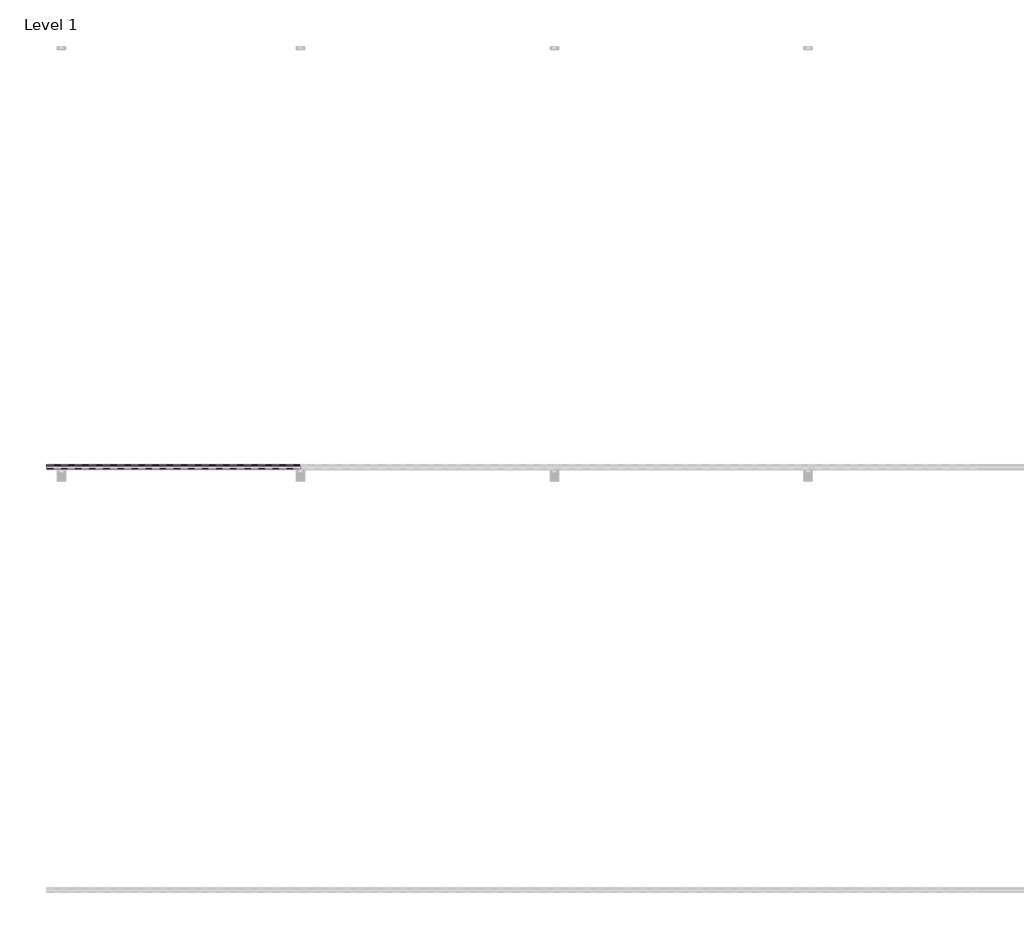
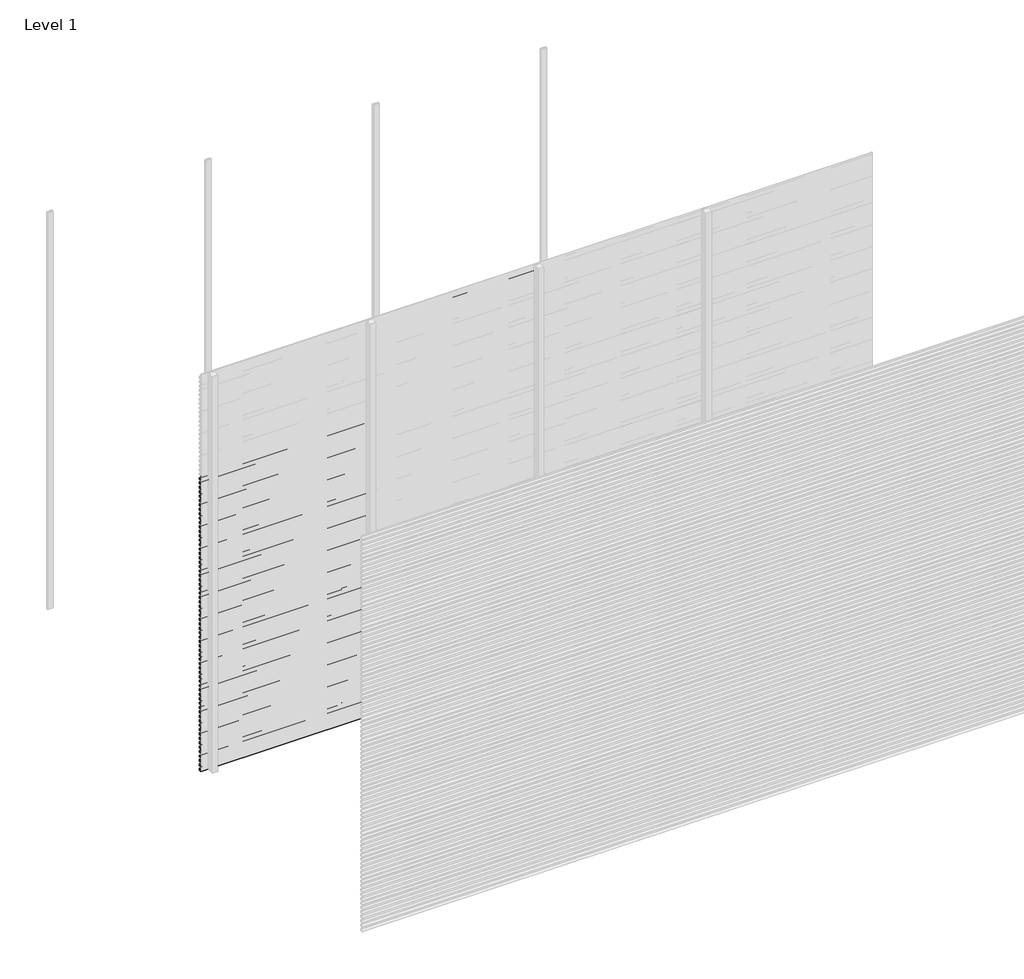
# One storey, part 35 of 77: 72 proxies.
"""IFC4 building model written with IfcOpenShell, lengths in millimetres."""

from ifc_helpers import new_model, si_unit, frame, origin, place, context, project, spatial, polyline, outline, extrude, element, save

model = new_model("IFC4")

# Units and contexts
model_context = context("Model", 3, world=origin())
ifc_project = project(units=[si_unit("LENGTHUNIT", "METRE", prefix="MILLI")], contexts=[model_context])

# Site, building, storey
site = spatial("IfcSite", under=ifc_project)
building = spatial("IfcBuilding", under=site)
storey = spatial("IfcBuildingStorey", under=building, Name="Level 1", Elevation=0.0)

# Proxies
placement = place(None, origin())
element("IfcBuildingElementProxy", 1, Name="Wall Sweeps", at=placement, inside=storey, context=model_context, shape_type="SweptSolid", body=[
    extrude(outline(polyline([(-29978.6, 2206.6359887), (-29998.0, 2217.8366691), (-29998.0, 2231.1), (-29997.0, 2231.1), (-29997.0, 2218.4191057), (-29977.6, 2207.2185105), (-29977.6, 2193.6185105), (-29978.6, 2195.1953129), (-29978.6, 2201.0032062), (-29995.9773817, 2192.9), (-29996.4, 2193.8063078), (-29978.6, 2202.1065841), (-29978.6, 2206.6359887)])), frame((0.0, 0.0, 0.0), z_axis=(1.0, 0.0, 0.0), x_axis=(0.0, 1.0, 0.0)), (0.0, 0.0, 1.0), 1200.0),
])
element("IfcBuildingElementProxy", 2, Name="Wall Sweeps", at=placement, inside=storey, context=model_context, shape_type="SweptSolid", body=[
    extrude(outline(polyline([(-29978.6, 2173.3359887), (-29998.0, 2184.5366691), (-29998.0, 2197.8), (-29997.0, 2197.8), (-29997.0, 2185.1191057), (-29977.6, 2173.9185105), (-29977.6, 2160.3185105), (-29978.6, 2161.8953129), (-29978.6, 2167.7032062), (-29995.9773817, 2159.6), (-29996.4, 2160.5063078), (-29978.6, 2168.8065841), (-29978.6, 2173.3359887)])), frame((0.0, 0.0, 0.0), z_axis=(1.0, 0.0, 0.0), x_axis=(0.0, 1.0, 0.0)), (0.0, 0.0, 1.0), 1200.0),
])
element("IfcBuildingElementProxy", 3, Name="Wall Sweeps", at=placement, inside=storey, context=model_context, shape_type="SweptSolid", body=[
    extrude(outline(polyline([(-29978.6, 2140.0359887), (-29998.0, 2151.2366691), (-29998.0, 2164.5), (-29997.0, 2164.5), (-29997.0, 2151.8191057), (-29977.6, 2140.6185105), (-29977.6, 2127.0185105), (-29978.6, 2128.5953129), (-29978.6, 2134.4032062), (-29995.9773817, 2126.3), (-29996.4, 2127.2063078), (-29978.6, 2135.5065841), (-29978.6, 2140.0359887)])), frame((0.0, 0.0, 0.0), z_axis=(1.0, 0.0, 0.0), x_axis=(0.0, 1.0, 0.0)), (0.0, 0.0, 1.0), 1200.0),
])
element("IfcBuildingElementProxy", 4, Name="Wall Sweeps", at=placement, inside=storey, context=model_context, shape_type="SweptSolid", body=[
    extrude(outline(polyline([(-29978.6, 2106.7359887), (-29998.0, 2117.9366691), (-29998.0, 2131.2), (-29997.0, 2131.2), (-29997.0, 2118.5191057), (-29977.6, 2107.3185105), (-29977.6, 2093.7185105), (-29978.6, 2095.2953129), (-29978.6, 2101.1032062), (-29995.9773817, 2093.0), (-29996.4, 2093.9063078), (-29978.6, 2102.2065841), (-29978.6, 2106.7359887)])), frame((0.0, 0.0, 0.0), z_axis=(1.0, 0.0, 0.0), x_axis=(0.0, 1.0, 0.0)), (0.0, 0.0, 1.0), 1200.0),
])
element("IfcBuildingElementProxy", 5, Name="Wall Sweeps", at=placement, inside=storey, context=model_context, shape_type="SweptSolid", body=[
    extrude(outline(polyline([(-29978.6, 2073.4359887), (-29998.0, 2084.6366691), (-29998.0, 2097.9), (-29997.0, 2097.9), (-29997.0, 2085.2191057), (-29977.6, 2074.0185105), (-29977.6, 2060.4185105), (-29978.6, 2061.9953129), (-29978.6, 2067.8032062), (-29995.9773817, 2059.7), (-29996.4, 2060.6063078), (-29978.6, 2068.9065841), (-29978.6, 2073.4359887)])), frame((0.0, 0.0, 0.0), z_axis=(1.0, 0.0, 0.0), x_axis=(0.0, 1.0, 0.0)), (0.0, 0.0, 1.0), 1200.0),
])
element("IfcBuildingElementProxy", 6, Name="Wall Sweeps", at=placement, inside=storey, context=model_context, shape_type="SweptSolid", body=[
    extrude(outline(polyline([(-29978.6, 2040.1359887), (-29998.0, 2051.3366691), (-29998.0, 2064.6), (-29997.0, 2064.6), (-29997.0, 2051.9191057), (-29977.6, 2040.7185105), (-29977.6, 2027.1185105), (-29978.6, 2028.6953129), (-29978.6, 2034.5032062), (-29995.9773817, 2026.4), (-29996.4, 2027.3063078), (-29978.6, 2035.6065841), (-29978.6, 2040.1359887)])), frame((0.0, 0.0, 0.0), z_axis=(1.0, 0.0, 0.0), x_axis=(0.0, 1.0, 0.0)), (0.0, 0.0, 1.0), 1200.0),
])
element("IfcBuildingElementProxy", 7, Name="Wall Sweeps", at=placement, inside=storey, context=model_context, shape_type="SweptSolid", body=[
    extrude(outline(polyline([(-29978.6, 2006.8359887), (-29998.0, 2018.0366691), (-29998.0, 2031.3), (-29997.0, 2031.3), (-29997.0, 2018.6191057), (-29977.6, 2007.4185105), (-29977.6, 1993.8185105), (-29978.6, 1995.3953129), (-29978.6, 2001.2032062), (-29995.9773817, 1993.1), (-29996.4, 1994.0063078), (-29978.6, 2002.3065841), (-29978.6, 2006.8359887)])), frame((0.0, 0.0, 0.0), z_axis=(1.0, 0.0, 0.0), x_axis=(0.0, 1.0, 0.0)), (0.0, 0.0, 1.0), 1200.0),
])
element("IfcBuildingElementProxy", 8, Name="Wall Sweeps", at=placement, inside=storey, context=model_context, shape_type="SweptSolid", body=[
    extrude(outline(polyline([(-29978.6, 1973.5359887), (-29998.0, 1984.7366691), (-29998.0, 1998.0), (-29997.0, 1998.0), (-29997.0, 1985.3191057), (-29977.6, 1974.1185105), (-29977.6, 1960.5185105), (-29978.6, 1962.0953129), (-29978.6, 1967.9032062), (-29995.9773817, 1959.8), (-29996.4, 1960.7063078), (-29978.6, 1969.0065841), (-29978.6, 1973.5359887)])), frame((0.0, 0.0, 0.0), z_axis=(1.0, 0.0, 0.0), x_axis=(0.0, 1.0, 0.0)), (0.0, 0.0, 1.0), 1200.0),
])
element("IfcBuildingElementProxy", 9, Name="Wall Sweeps", at=placement, inside=storey, context=model_context, shape_type="SweptSolid", body=[
    extrude(outline(polyline([(-29978.6, 1940.2359887), (-29998.0, 1951.4366691), (-29998.0, 1964.7), (-29997.0, 1964.7), (-29997.0, 1952.0191057), (-29977.6, 1940.8185105), (-29977.6, 1927.2185105), (-29978.6, 1928.7953129), (-29978.6, 1934.6032062), (-29995.9773817, 1926.5), (-29996.4, 1927.4063078), (-29978.6, 1935.7065841), (-29978.6, 1940.2359887)])), frame((0.0, 0.0, 0.0), z_axis=(1.0, 0.0, 0.0), x_axis=(0.0, 1.0, 0.0)), (0.0, 0.0, 1.0), 1200.0),
])
element("IfcBuildingElementProxy", 10, Name="Wall Sweeps", at=placement, inside=storey, context=model_context, shape_type="SweptSolid", body=[
    extrude(outline(polyline([(-29978.6, 1906.9359887), (-29998.0, 1918.1366691), (-29998.0, 1931.4), (-29997.0, 1931.4), (-29997.0, 1918.7191057), (-29977.6, 1907.5185105), (-29977.6, 1893.9185105), (-29978.6, 1895.4953129), (-29978.6, 1901.3032062), (-29995.9773817, 1893.2), (-29996.4, 1894.1063078), (-29978.6, 1902.4065841), (-29978.6, 1906.9359887)])), frame((0.0, 0.0, 0.0), z_axis=(1.0, 0.0, 0.0), x_axis=(0.0, 1.0, 0.0)), (0.0, 0.0, 1.0), 1200.0),
])
element("IfcBuildingElementProxy", 11, Name="Wall Sweeps", at=placement, inside=storey, context=model_context, shape_type="SweptSolid", body=[
    extrude(outline(polyline([(-29978.6, 1873.6359887), (-29998.0, 1884.8366691), (-29998.0, 1898.1), (-29997.0, 1898.1), (-29997.0, 1885.4191057), (-29977.6, 1874.2185105), (-29977.6, 1860.6185105), (-29978.6, 1862.1953129), (-29978.6, 1868.0032062), (-29995.9773817, 1859.9), (-29996.4, 1860.8063078), (-29978.6, 1869.1065841), (-29978.6, 1873.6359887)])), frame((0.0, 0.0, 0.0), z_axis=(1.0, 0.0, 0.0), x_axis=(0.0, 1.0, 0.0)), (0.0, 0.0, 1.0), 1200.0),
])
element("IfcBuildingElementProxy", 12, Name="Wall Sweeps", at=placement, inside=storey, context=model_context, shape_type="SweptSolid", body=[
    extrude(outline(polyline([(-29978.6, 1840.3359887), (-29998.0, 1851.5366691), (-29998.0, 1864.8), (-29997.0, 1864.8), (-29997.0, 1852.1191057), (-29977.6, 1840.9185105), (-29977.6, 1827.3185105), (-29978.6, 1828.8953129), (-29978.6, 1834.7032062), (-29995.9773817, 1826.6), (-29996.4, 1827.5063078), (-29978.6, 1835.8065841), (-29978.6, 1840.3359887)])), frame((0.0, 0.0, 0.0), z_axis=(1.0, 0.0, 0.0), x_axis=(0.0, 1.0, 0.0)), (0.0, 0.0, 1.0), 1200.0),
])
element("IfcBuildingElementProxy", 13, Name="Wall Sweeps", at=placement, inside=storey, context=model_context, shape_type="SweptSolid", body=[
    extrude(outline(polyline([(-29978.6, 1807.0359887), (-29998.0, 1818.2366691), (-29998.0, 1831.5), (-29997.0, 1831.5), (-29997.0, 1818.8191057), (-29977.6, 1807.6185105), (-29977.6, 1794.0185105), (-29978.6, 1795.5953129), (-29978.6, 1801.4032062), (-29995.9773817, 1793.3), (-29996.4, 1794.2063078), (-29978.6, 1802.5065841), (-29978.6, 1807.0359887)])), frame((0.0, 0.0, 0.0), z_axis=(1.0, 0.0, 0.0), x_axis=(0.0, 1.0, 0.0)), (0.0, 0.0, 1.0), 1200.0),
])
element("IfcBuildingElementProxy", 14, Name="Wall Sweeps", at=placement, inside=storey, context=model_context, shape_type="SweptSolid", body=[
    extrude(outline(polyline([(-29978.6, 1773.7359887), (-29998.0, 1784.9366691), (-29998.0, 1798.2), (-29997.0, 1798.2), (-29997.0, 1785.5191057), (-29977.6, 1774.3185105), (-29977.6, 1760.7185105), (-29978.6, 1762.2953129), (-29978.6, 1768.1032062), (-29995.9773817, 1760.0), (-29996.4, 1760.9063078), (-29978.6, 1769.2065841), (-29978.6, 1773.7359887)])), frame((0.0, 0.0, 0.0), z_axis=(1.0, 0.0, 0.0), x_axis=(0.0, 1.0, 0.0)), (0.0, 0.0, 1.0), 1200.0),
])
element("IfcBuildingElementProxy", 15, Name="Wall Sweeps", at=placement, inside=storey, context=model_context, shape_type="SweptSolid", body=[
    extrude(outline(polyline([(-29978.6, 1740.4359887), (-29998.0, 1751.6366691), (-29998.0, 1764.9), (-29997.0, 1764.9), (-29997.0, 1752.2191057), (-29977.6, 1741.0185105), (-29977.6, 1727.4185105), (-29978.6, 1728.9953129), (-29978.6, 1734.8032062), (-29995.9773817, 1726.7), (-29996.4, 1727.6063078), (-29978.6, 1735.9065841), (-29978.6, 1740.4359887)])), frame((0.0, 0.0, 0.0), z_axis=(1.0, 0.0, 0.0), x_axis=(0.0, 1.0, 0.0)), (0.0, 0.0, 1.0), 1200.0),
])
element("IfcBuildingElementProxy", 16, Name="Wall Sweeps", at=placement, inside=storey, context=model_context, shape_type="SweptSolid", body=[
    extrude(outline(polyline([(-29978.6, 1707.1359887), (-29998.0, 1718.3366691), (-29998.0, 1731.6), (-29997.0, 1731.6), (-29997.0, 1718.9191057), (-29977.6, 1707.7185105), (-29977.6, 1694.1185105), (-29978.6, 1695.6953129), (-29978.6, 1701.5032062), (-29995.9773817, 1693.4), (-29996.4, 1694.3063078), (-29978.6, 1702.6065841), (-29978.6, 1707.1359887)])), frame((0.0, 0.0, 0.0), z_axis=(1.0, 0.0, 0.0), x_axis=(0.0, 1.0, 0.0)), (0.0, 0.0, 1.0), 1200.0),
])
element("IfcBuildingElementProxy", 17, Name="Wall Sweeps", at=placement, inside=storey, context=model_context, shape_type="SweptSolid", body=[
    extrude(outline(polyline([(-29978.6, 1673.8359887), (-29998.0, 1685.0366691), (-29998.0, 1698.3), (-29997.0, 1698.3), (-29997.0, 1685.6191057), (-29977.6, 1674.4185105), (-29977.6, 1660.8185105), (-29978.6, 1662.3953129), (-29978.6, 1668.2032062), (-29995.9773817, 1660.1), (-29996.4, 1661.0063078), (-29978.6, 1669.3065841), (-29978.6, 1673.8359887)])), frame((0.0, 0.0, 0.0), z_axis=(1.0, 0.0, 0.0), x_axis=(0.0, 1.0, 0.0)), (0.0, 0.0, 1.0), 1200.0),
])
element("IfcBuildingElementProxy", 18, Name="Wall Sweeps", at=placement, inside=storey, context=model_context, shape_type="SweptSolid", body=[
    extrude(outline(polyline([(-29978.6, 1640.5359887), (-29998.0, 1651.7366691), (-29998.0, 1665.0), (-29997.0, 1665.0), (-29997.0, 1652.3191057), (-29977.6, 1641.1185105), (-29977.6, 1627.5185105), (-29978.6, 1629.0953129), (-29978.6, 1634.9032062), (-29995.9773817, 1626.8), (-29996.4, 1627.7063078), (-29978.6, 1636.0065841), (-29978.6, 1640.5359887)])), frame((0.0, 0.0, 0.0), z_axis=(1.0, 0.0, 0.0), x_axis=(0.0, 1.0, 0.0)), (0.0, 0.0, 1.0), 1200.0),
])
element("IfcBuildingElementProxy", 19, Name="Wall Sweeps", at=placement, inside=storey, context=model_context, shape_type="SweptSolid", body=[
    extrude(outline(polyline([(-29978.6, 1607.2359887), (-29998.0, 1618.4366691), (-29998.0, 1631.7), (-29997.0, 1631.7), (-29997.0, 1619.0191057), (-29977.6, 1607.8185105), (-29977.6, 1594.2185105), (-29978.6, 1595.7953129), (-29978.6, 1601.6032062), (-29995.9773817, 1593.5), (-29996.4, 1594.4063078), (-29978.6, 1602.7065841), (-29978.6, 1607.2359887)])), frame((0.0, 0.0, 0.0), z_axis=(1.0, 0.0, 0.0), x_axis=(0.0, 1.0, 0.0)), (0.0, 0.0, 1.0), 1200.0),
])
element("IfcBuildingElementProxy", 20, Name="Wall Sweeps", at=placement, inside=storey, context=model_context, shape_type="SweptSolid", body=[
    extrude(outline(polyline([(-29978.6, 1573.9359887), (-29998.0, 1585.1366691), (-29998.0, 1598.4), (-29997.0, 1598.4), (-29997.0, 1585.7191057), (-29977.6, 1574.5185105), (-29977.6, 1560.9185105), (-29978.6, 1562.4953129), (-29978.6, 1568.3032062), (-29995.9773817, 1560.2), (-29996.4, 1561.1063078), (-29978.6, 1569.4065841), (-29978.6, 1573.9359887)])), frame((0.0, 0.0, 0.0), z_axis=(1.0, 0.0, 0.0), x_axis=(0.0, 1.0, 0.0)), (0.0, 0.0, 1.0), 1200.0),
])
element("IfcBuildingElementProxy", 21, Name="Wall Sweeps", at=placement, inside=storey, context=model_context, shape_type="SweptSolid", body=[
    extrude(outline(polyline([(-29978.6, 1540.6359887), (-29998.0, 1551.8366691), (-29998.0, 1565.1), (-29997.0, 1565.1), (-29997.0, 1552.4191057), (-29977.6, 1541.2185105), (-29977.6, 1527.6185105), (-29978.6, 1529.1953129), (-29978.6, 1535.0032062), (-29995.9773817, 1526.9), (-29996.4, 1527.8063078), (-29978.6, 1536.1065841), (-29978.6, 1540.6359887)])), frame((0.0, 0.0, 0.0), z_axis=(1.0, 0.0, 0.0), x_axis=(0.0, 1.0, 0.0)), (0.0, 0.0, 1.0), 1200.0),
])
element("IfcBuildingElementProxy", 22, Name="Wall Sweeps", at=placement, inside=storey, context=model_context, shape_type="SweptSolid", body=[
    extrude(outline(polyline([(-29978.6, 1507.3359887), (-29998.0, 1518.5366691), (-29998.0, 1531.8), (-29997.0, 1531.8), (-29997.0, 1519.1191057), (-29977.6, 1507.9185105), (-29977.6, 1494.3185105), (-29978.6, 1495.8953129), (-29978.6, 1501.7032062), (-29995.9773817, 1493.6), (-29996.4, 1494.5063078), (-29978.6, 1502.8065841), (-29978.6, 1507.3359887)])), frame((0.0, 0.0, 0.0), z_axis=(1.0, 0.0, 0.0), x_axis=(0.0, 1.0, 0.0)), (0.0, 0.0, 1.0), 1200.0),
])
element("IfcBuildingElementProxy", 23, Name="Wall Sweeps", at=placement, inside=storey, context=model_context, shape_type="SweptSolid", body=[
    extrude(outline(polyline([(-29978.6, 1474.0359887), (-29998.0, 1485.2366691), (-29998.0, 1498.5), (-29997.0, 1498.5), (-29997.0, 1485.8191057), (-29977.6, 1474.6185105), (-29977.6, 1461.0185105), (-29978.6, 1462.5953129), (-29978.6, 1468.4032062), (-29995.9773817, 1460.3), (-29996.4, 1461.2063078), (-29978.6, 1469.5065841), (-29978.6, 1474.0359887)])), frame((0.0, 0.0, 0.0), z_axis=(1.0, 0.0, 0.0), x_axis=(0.0, 1.0, 0.0)), (0.0, 0.0, 1.0), 1200.0),
])
element("IfcBuildingElementProxy", 24, Name="Wall Sweeps", at=placement, inside=storey, context=model_context, shape_type="SweptSolid", body=[
    extrude(outline(polyline([(-29978.6, 1440.7359887), (-29998.0, 1451.9366691), (-29998.0, 1465.2), (-29997.0, 1465.2), (-29997.0, 1452.5191057), (-29977.6, 1441.3185105), (-29977.6, 1427.7185105), (-29978.6, 1429.2953129), (-29978.6, 1435.1032062), (-29995.9773817, 1427.0), (-29996.4, 1427.9063078), (-29978.6, 1436.2065841), (-29978.6, 1440.7359887)])), frame((0.0, 0.0, 0.0), z_axis=(1.0, 0.0, 0.0), x_axis=(0.0, 1.0, 0.0)), (0.0, 0.0, 1.0), 1200.0),
])
element("IfcBuildingElementProxy", 25, Name="Wall Sweeps", at=placement, inside=storey, context=model_context, shape_type="SweptSolid", body=[
    extrude(outline(polyline([(-29978.6, 1407.4359887), (-29998.0, 1418.6366691), (-29998.0, 1431.9), (-29997.0, 1431.9), (-29997.0, 1419.2191057), (-29977.6, 1408.0185105), (-29977.6, 1394.4185105), (-29978.6, 1395.9953129), (-29978.6, 1401.8032062), (-29995.9773817, 1393.7), (-29996.4, 1394.6063078), (-29978.6, 1402.9065841), (-29978.6, 1407.4359887)])), frame((0.0, 0.0, 0.0), z_axis=(1.0, 0.0, 0.0), x_axis=(0.0, 1.0, 0.0)), (0.0, 0.0, 1.0), 1200.0),
])
element("IfcBuildingElementProxy", 26, Name="Wall Sweeps", at=placement, inside=storey, context=model_context, shape_type="SweptSolid", body=[
    extrude(outline(polyline([(-29978.6, 1374.1359887), (-29998.0, 1385.3366691), (-29998.0, 1398.6), (-29997.0, 1398.6), (-29997.0, 1385.9191057), (-29977.6, 1374.7185105), (-29977.6, 1361.1185105), (-29978.6, 1362.6953129), (-29978.6, 1368.5032062), (-29995.9773817, 1360.4), (-29996.4, 1361.3063078), (-29978.6, 1369.6065841), (-29978.6, 1374.1359887)])), frame((0.0, 0.0, 0.0), z_axis=(1.0, 0.0, 0.0), x_axis=(0.0, 1.0, 0.0)), (0.0, 0.0, 1.0), 1200.0),
])
element("IfcBuildingElementProxy", 27, Name="Wall Sweeps", at=placement, inside=storey, context=model_context, shape_type="SweptSolid", body=[
    extrude(outline(polyline([(-29978.6, 1340.8359887), (-29998.0, 1352.0366691), (-29998.0, 1365.3), (-29997.0, 1365.3), (-29997.0, 1352.6191057), (-29977.6, 1341.4185105), (-29977.6, 1327.8185105), (-29978.6, 1329.3953129), (-29978.6, 1335.2032062), (-29995.9773817, 1327.1), (-29996.4, 1328.0063078), (-29978.6, 1336.3065841), (-29978.6, 1340.8359887)])), frame((0.0, 0.0, 0.0), z_axis=(1.0, 0.0, 0.0), x_axis=(0.0, 1.0, 0.0)), (0.0, 0.0, 1.0), 1200.0),
])
element("IfcBuildingElementProxy", 28, Name="Wall Sweeps", at=placement, inside=storey, context=model_context, shape_type="SweptSolid", body=[
    extrude(outline(polyline([(-29978.6, 1307.5359887), (-29998.0, 1318.7366691), (-29998.0, 1332.0), (-29997.0, 1332.0), (-29997.0, 1319.3191057), (-29977.6, 1308.1185105), (-29977.6, 1294.5185105), (-29978.6, 1296.0953129), (-29978.6, 1301.9032062), (-29995.9773817, 1293.8), (-29996.4, 1294.7063078), (-29978.6, 1303.0065841), (-29978.6, 1307.5359887)])), frame((0.0, 0.0, 0.0), z_axis=(1.0, 0.0, 0.0), x_axis=(0.0, 1.0, 0.0)), (0.0, 0.0, 1.0), 1200.0),
])
element("IfcBuildingElementProxy", 29, Name="Wall Sweeps", at=placement, inside=storey, context=model_context, shape_type="SweptSolid", body=[
    extrude(outline(polyline([(-29978.6, 1274.2359887), (-29998.0, 1285.4366691), (-29998.0, 1298.7), (-29997.0, 1298.7), (-29997.0, 1286.0191057), (-29977.6, 1274.8185105), (-29977.6, 1261.2185105), (-29978.6, 1262.7953129), (-29978.6, 1268.6032062), (-29995.9773817, 1260.5), (-29996.4, 1261.4063078), (-29978.6, 1269.7065841), (-29978.6, 1274.2359887)])), frame((0.0, 0.0, 0.0), z_axis=(1.0, 0.0, 0.0), x_axis=(0.0, 1.0, 0.0)), (0.0, 0.0, 1.0), 1200.0),
])
element("IfcBuildingElementProxy", 30, Name="Wall Sweeps", at=placement, inside=storey, context=model_context, shape_type="SweptSolid", body=[
    extrude(outline(polyline([(-29978.6, 1240.9359887), (-29998.0, 1252.1366691), (-29998.0, 1265.4), (-29997.0, 1265.4), (-29997.0, 1252.7191057), (-29977.6, 1241.5185105), (-29977.6, 1227.9185105), (-29978.6, 1229.4953129), (-29978.6, 1235.3032062), (-29995.9773817, 1227.2), (-29996.4, 1228.1063078), (-29978.6, 1236.4065841), (-29978.6, 1240.9359887)])), frame((0.0, 0.0, 0.0), z_axis=(1.0, 0.0, 0.0), x_axis=(0.0, 1.0, 0.0)), (0.0, 0.0, 1.0), 1200.0),
])
element("IfcBuildingElementProxy", 31, Name="Wall Sweeps", at=placement, inside=storey, context=model_context, shape_type="SweptSolid", body=[
    extrude(outline(polyline([(-29978.6, 1207.6359887), (-29998.0, 1218.8366691), (-29998.0, 1232.1), (-29997.0, 1232.1), (-29997.0, 1219.4191057), (-29977.6, 1208.2185105), (-29977.6, 1194.6185105), (-29978.6, 1196.1953129), (-29978.6, 1202.0032062), (-29995.9773817, 1193.9), (-29996.4, 1194.8063078), (-29978.6, 1203.1065841), (-29978.6, 1207.6359887)])), frame((0.0, 0.0, 0.0), z_axis=(1.0, 0.0, 0.0), x_axis=(0.0, 1.0, 0.0)), (0.0, 0.0, 1.0), 1200.0),
])
element("IfcBuildingElementProxy", 32, Name="Wall Sweeps", at=placement, inside=storey, context=model_context, shape_type="SweptSolid", body=[
    extrude(outline(polyline([(-29978.6, 1174.3359887), (-29998.0, 1185.5366691), (-29998.0, 1198.8), (-29997.0, 1198.8), (-29997.0, 1186.1191057), (-29977.6, 1174.9185105), (-29977.6, 1161.3185105), (-29978.6, 1162.8953129), (-29978.6, 1168.7032062), (-29995.9773817, 1160.6), (-29996.4, 1161.5063078), (-29978.6, 1169.8065841), (-29978.6, 1174.3359887)])), frame((0.0, 0.0, 0.0), z_axis=(1.0, 0.0, 0.0), x_axis=(0.0, 1.0, 0.0)), (0.0, 0.0, 1.0), 1200.0),
])
element("IfcBuildingElementProxy", 33, Name="Wall Sweeps", at=placement, inside=storey, context=model_context, shape_type="SweptSolid", body=[
    extrude(outline(polyline([(-29978.6, 1141.0359887), (-29998.0, 1152.2366691), (-29998.0, 1165.5), (-29997.0, 1165.5), (-29997.0, 1152.8191057), (-29977.6, 1141.6185105), (-29977.6, 1128.0185105), (-29978.6, 1129.5953129), (-29978.6, 1135.4032062), (-29995.9773817, 1127.3), (-29996.4, 1128.2063078), (-29978.6, 1136.5065841), (-29978.6, 1141.0359887)])), frame((0.0, 0.0, 0.0), z_axis=(1.0, 0.0, 0.0), x_axis=(0.0, 1.0, 0.0)), (0.0, 0.0, 1.0), 1200.0),
])
element("IfcBuildingElementProxy", 34, Name="Wall Sweeps", at=placement, inside=storey, context=model_context, shape_type="SweptSolid", body=[
    extrude(outline(polyline([(-29978.6, 1107.7359887), (-29998.0, 1118.9366691), (-29998.0, 1132.2), (-29997.0, 1132.2), (-29997.0, 1119.5191057), (-29977.6, 1108.3185105), (-29977.6, 1094.7185105), (-29978.6, 1096.2953129), (-29978.6, 1102.1032062), (-29995.9773817, 1094.0), (-29996.4, 1094.9063078), (-29978.6, 1103.2065841), (-29978.6, 1107.7359887)])), frame((0.0, 0.0, 0.0), z_axis=(1.0, 0.0, 0.0), x_axis=(0.0, 1.0, 0.0)), (0.0, 0.0, 1.0), 1200.0),
])
element("IfcBuildingElementProxy", 35, Name="Wall Sweeps", at=placement, inside=storey, context=model_context, shape_type="SweptSolid", body=[
    extrude(outline(polyline([(-29978.6, 1074.4359887), (-29998.0, 1085.6366691), (-29998.0, 1098.9), (-29997.0, 1098.9), (-29997.0, 1086.2191057), (-29977.6, 1075.0185105), (-29977.6, 1061.4185105), (-29978.6, 1062.9953129), (-29978.6, 1068.8032062), (-29995.9773817, 1060.7), (-29996.4, 1061.6063078), (-29978.6, 1069.9065841), (-29978.6, 1074.4359887)])), frame((0.0, 0.0, 0.0), z_axis=(1.0, 0.0, 0.0), x_axis=(0.0, 1.0, 0.0)), (0.0, 0.0, 1.0), 1200.0),
])
element("IfcBuildingElementProxy", 36, Name="Wall Sweeps", at=placement, inside=storey, context=model_context, shape_type="SweptSolid", body=[
    extrude(outline(polyline([(-29978.6, 1041.1359887), (-29998.0, 1052.3366691), (-29998.0, 1065.6), (-29997.0, 1065.6), (-29997.0, 1052.9191057), (-29977.6, 1041.7185105), (-29977.6, 1028.1185105), (-29978.6, 1029.6953129), (-29978.6, 1035.5032062), (-29995.9773817, 1027.4), (-29996.4, 1028.3063078), (-29978.6, 1036.6065841), (-29978.6, 1041.1359887)])), frame((0.0, 0.0, 0.0), z_axis=(1.0, 0.0, 0.0), x_axis=(0.0, 1.0, 0.0)), (0.0, 0.0, 1.0), 1200.0),
])
element("IfcBuildingElementProxy", 37, Name="Wall Sweeps", at=placement, inside=storey, context=model_context, shape_type="SweptSolid", body=[
    extrude(outline(polyline([(-29978.6, 1007.8359887), (-29998.0, 1019.0366691), (-29998.0, 1032.3), (-29997.0, 1032.3), (-29997.0, 1019.6191057), (-29977.6, 1008.4185105), (-29977.6, 994.8185105), (-29978.6, 996.3953129), (-29978.6, 1002.2032062), (-29995.9773817, 994.1), (-29996.4, 995.0063078), (-29978.6, 1003.3065841), (-29978.6, 1007.8359887)])), frame((0.0, 0.0, 0.0), z_axis=(1.0, 0.0, 0.0), x_axis=(0.0, 1.0, 0.0)), (0.0, 0.0, 1.0), 1200.0),
])
element("IfcBuildingElementProxy", 38, Name="Wall Sweeps", at=placement, inside=storey, context=model_context, shape_type="SweptSolid", body=[
    extrude(outline(polyline([(-29978.6, 974.5359887), (-29998.0, 985.7366691), (-29998.0, 999.0), (-29997.0, 999.0), (-29997.0, 986.3191057), (-29977.6, 975.1185105), (-29977.6, 961.5185105), (-29978.6, 963.0953129), (-29978.6, 968.9032062), (-29995.9773817, 960.8), (-29996.4, 961.7063078), (-29978.6, 970.0065841), (-29978.6, 974.5359887)])), frame((0.0, 0.0, 0.0), z_axis=(1.0, 0.0, 0.0), x_axis=(0.0, 1.0, 0.0)), (0.0, 0.0, 1.0), 1200.0),
])
element("IfcBuildingElementProxy", 39, Name="Wall Sweeps", at=placement, inside=storey, context=model_context, shape_type="SweptSolid", body=[
    extrude(outline(polyline([(-29978.6, 941.2359887), (-29998.0, 952.4366691), (-29998.0, 965.7), (-29997.0, 965.7), (-29997.0, 953.0191057), (-29977.6, 941.8185105), (-29977.6, 928.2185105), (-29978.6, 929.7953129), (-29978.6, 935.6032062), (-29995.9773817, 927.5), (-29996.4, 928.4063078), (-29978.6, 936.7065841), (-29978.6, 941.2359887)])), frame((0.0, 0.0, 0.0), z_axis=(1.0, 0.0, 0.0), x_axis=(0.0, 1.0, 0.0)), (0.0, 0.0, 1.0), 1200.0),
])
element("IfcBuildingElementProxy", 40, Name="Wall Sweeps", at=placement, inside=storey, context=model_context, shape_type="SweptSolid", body=[
    extrude(outline(polyline([(-29978.6, 907.9359887), (-29998.0, 919.1366691), (-29998.0, 932.4), (-29997.0, 932.4), (-29997.0, 919.7191057), (-29977.6, 908.5185105), (-29977.6, 894.9185105), (-29978.6, 896.4953129), (-29978.6, 902.3032062), (-29995.9773817, 894.2), (-29996.4, 895.1063078), (-29978.6, 903.4065841), (-29978.6, 907.9359887)])), frame((0.0, 0.0, 0.0), z_axis=(1.0, 0.0, 0.0), x_axis=(0.0, 1.0, 0.0)), (0.0, 0.0, 1.0), 1200.0),
])
element("IfcBuildingElementProxy", 41, Name="Wall Sweeps", at=placement, inside=storey, context=model_context, shape_type="SweptSolid", body=[
    extrude(outline(polyline([(-29978.6, 874.6359887), (-29998.0, 885.8366691), (-29998.0, 899.1), (-29997.0, 899.1), (-29997.0, 886.4191057), (-29977.6, 875.2185105), (-29977.6, 861.6185105), (-29978.6, 863.1953129), (-29978.6, 869.0032062), (-29995.9773817, 860.9), (-29996.4, 861.8063078), (-29978.6, 870.1065841), (-29978.6, 874.6359887)])), frame((0.0, 0.0, 0.0), z_axis=(1.0, 0.0, 0.0), x_axis=(0.0, 1.0, 0.0)), (0.0, 0.0, 1.0), 1200.0),
])
element("IfcBuildingElementProxy", 42, Name="Wall Sweeps", at=placement, inside=storey, context=model_context, shape_type="SweptSolid", body=[
    extrude(outline(polyline([(-29978.6, 841.3359887), (-29998.0, 852.5366691), (-29998.0, 865.8), (-29997.0, 865.8), (-29997.0, 853.1191057), (-29977.6, 841.9185105), (-29977.6, 828.3185105), (-29978.6, 829.8953129), (-29978.6, 835.7032062), (-29995.9773817, 827.6), (-29996.4, 828.5063078), (-29978.6, 836.8065841), (-29978.6, 841.3359887)])), frame((0.0, 0.0, 0.0), z_axis=(1.0, 0.0, 0.0), x_axis=(0.0, 1.0, 0.0)), (0.0, 0.0, 1.0), 1200.0),
])
element("IfcBuildingElementProxy", 43, Name="Wall Sweeps", at=placement, inside=storey, context=model_context, shape_type="SweptSolid", body=[
    extrude(outline(polyline([(-29978.6, 808.0359887), (-29998.0, 819.2366691), (-29998.0, 832.5), (-29997.0, 832.5), (-29997.0, 819.8191057), (-29977.6, 808.6185105), (-29977.6, 795.0185105), (-29978.6, 796.5953129), (-29978.6, 802.4032062), (-29995.9773817, 794.3), (-29996.4, 795.2063078), (-29978.6, 803.5065841), (-29978.6, 808.0359887)])), frame((0.0, 0.0, 0.0), z_axis=(1.0, 0.0, 0.0), x_axis=(0.0, 1.0, 0.0)), (0.0, 0.0, 1.0), 1200.0),
])
element("IfcBuildingElementProxy", 44, Name="Wall Sweeps", at=placement, inside=storey, context=model_context, shape_type="SweptSolid", body=[
    extrude(outline(polyline([(-29978.6, 774.7359887), (-29998.0, 785.9366691), (-29998.0, 799.2), (-29997.0, 799.2), (-29997.0, 786.5191057), (-29977.6, 775.3185105), (-29977.6, 761.7185105), (-29978.6, 763.2953129), (-29978.6, 769.1032062), (-29995.9773817, 761.0), (-29996.4, 761.9063078), (-29978.6, 770.2065841), (-29978.6, 774.7359887)])), frame((0.0, 0.0, 0.0), z_axis=(1.0, 0.0, 0.0), x_axis=(0.0, 1.0, 0.0)), (0.0, 0.0, 1.0), 1200.0),
])
element("IfcBuildingElementProxy", 45, Name="Wall Sweeps", at=placement, inside=storey, context=model_context, shape_type="SweptSolid", body=[
    extrude(outline(polyline([(-29978.6, 741.4359887), (-29998.0, 752.6366691), (-29998.0, 765.9), (-29997.0, 765.9), (-29997.0, 753.2191057), (-29977.6, 742.0185105), (-29977.6, 728.4185105), (-29978.6, 729.9953129), (-29978.6, 735.8032062), (-29995.9773817, 727.7), (-29996.4, 728.6063078), (-29978.6, 736.9065841), (-29978.6, 741.4359887)])), frame((0.0, 0.0, 0.0), z_axis=(1.0, 0.0, 0.0), x_axis=(0.0, 1.0, 0.0)), (0.0, 0.0, 1.0), 1200.0),
])
element("IfcBuildingElementProxy", 46, Name="Wall Sweeps", at=placement, inside=storey, context=model_context, shape_type="SweptSolid", body=[
    extrude(outline(polyline([(-29978.6, 708.1359887), (-29998.0, 719.3366691), (-29998.0, 732.6), (-29997.0, 732.6), (-29997.0, 719.9191057), (-29977.6, 708.7185105), (-29977.6, 695.1185105), (-29978.6, 696.6953129), (-29978.6, 702.5032062), (-29995.9773817, 694.4), (-29996.4, 695.3063078), (-29978.6, 703.6065841), (-29978.6, 708.1359887)])), frame((0.0, 0.0, 0.0), z_axis=(1.0, 0.0, 0.0), x_axis=(0.0, 1.0, 0.0)), (0.0, 0.0, 1.0), 1200.0),
])
element("IfcBuildingElementProxy", 47, Name="Wall Sweeps", at=placement, inside=storey, context=model_context, shape_type="SweptSolid", body=[
    extrude(outline(polyline([(-29978.6, 674.8359887), (-29998.0, 686.0366691), (-29998.0, 699.3), (-29997.0, 699.3), (-29997.0, 686.6191057), (-29977.6, 675.4185105), (-29977.6, 661.8185105), (-29978.6, 663.3953129), (-29978.6, 669.2032062), (-29995.9773817, 661.1), (-29996.4, 662.0063078), (-29978.6, 670.3065841), (-29978.6, 674.8359887)])), frame((0.0, 0.0, 0.0), z_axis=(1.0, 0.0, 0.0), x_axis=(0.0, 1.0, 0.0)), (0.0, 0.0, 1.0), 1200.0),
])
element("IfcBuildingElementProxy", 48, Name="Wall Sweeps", at=placement, inside=storey, context=model_context, shape_type="SweptSolid", body=[
    extrude(outline(polyline([(-29978.6, 641.5359887), (-29998.0, 652.7366691), (-29998.0, 666.0), (-29997.0, 666.0), (-29997.0, 653.3191057), (-29977.6, 642.1185105), (-29977.6, 628.5185105), (-29978.6, 630.0953129), (-29978.6, 635.9032062), (-29995.9773817, 627.8), (-29996.4, 628.7063078), (-29978.6, 637.0065841), (-29978.6, 641.5359887)])), frame((0.0, 0.0, 0.0), z_axis=(1.0, 0.0, 0.0), x_axis=(0.0, 1.0, 0.0)), (0.0, 0.0, 1.0), 1200.0),
])
element("IfcBuildingElementProxy", 49, Name="Wall Sweeps", at=placement, inside=storey, context=model_context, shape_type="SweptSolid", body=[
    extrude(outline(polyline([(-29978.6, 608.2359887), (-29998.0, 619.4366691), (-29998.0, 632.7), (-29997.0, 632.7), (-29997.0, 620.0191057), (-29977.6, 608.8185105), (-29977.6, 595.2185105), (-29978.6, 596.7953129), (-29978.6, 602.6032062), (-29995.9773817, 594.5), (-29996.4, 595.4063078), (-29978.6, 603.7065841), (-29978.6, 608.2359887)])), frame((0.0, 0.0, 0.0), z_axis=(1.0, 0.0, 0.0), x_axis=(0.0, 1.0, 0.0)), (0.0, 0.0, 1.0), 1200.0),
])
element("IfcBuildingElementProxy", 50, Name="Wall Sweeps", at=placement, inside=storey, context=model_context, shape_type="SweptSolid", body=[
    extrude(outline(polyline([(-29978.6, 574.9359887), (-29998.0, 586.1366691), (-29998.0, 599.4), (-29997.0, 599.4), (-29997.0, 586.7191057), (-29977.6, 575.5185105), (-29977.6, 561.9185105), (-29978.6, 563.4953129), (-29978.6, 569.3032062), (-29995.9773817, 561.2), (-29996.4, 562.1063078), (-29978.6, 570.4065841), (-29978.6, 574.9359887)])), frame((0.0, 0.0, 0.0), z_axis=(1.0, 0.0, 0.0), x_axis=(0.0, 1.0, 0.0)), (0.0, 0.0, 1.0), 1200.0),
])
element("IfcBuildingElementProxy", 51, Name="Wall Sweeps", at=placement, inside=storey, context=model_context, shape_type="SweptSolid", body=[
    extrude(outline(polyline([(-29978.6, 541.6359887), (-29998.0, 552.8366691), (-29998.0, 566.1), (-29997.0, 566.1), (-29997.0, 553.4191057), (-29977.6, 542.2185105), (-29977.6, 528.6185105), (-29978.6, 530.1953129), (-29978.6, 536.0032062), (-29995.9773817, 527.9), (-29996.4, 528.8063078), (-29978.6, 537.1065841), (-29978.6, 541.6359887)])), frame((0.0, 0.0, 0.0), z_axis=(1.0, 0.0, 0.0), x_axis=(0.0, 1.0, 0.0)), (0.0, 0.0, 1.0), 1200.0),
])
element("IfcBuildingElementProxy", 52, Name="Wall Sweeps", at=placement, inside=storey, context=model_context, shape_type="SweptSolid", body=[
    extrude(outline(polyline([(-29978.6, 508.3359887), (-29998.0, 519.5366691), (-29998.0, 532.8), (-29997.0, 532.8), (-29997.0, 520.1191057), (-29977.6, 508.9185105), (-29977.6, 495.3185105), (-29978.6, 496.8953129), (-29978.6, 502.7032062), (-29995.9773817, 494.6), (-29996.4, 495.5063078), (-29978.6, 503.8065841), (-29978.6, 508.3359887)])), frame((0.0, 0.0, 0.0), z_axis=(1.0, 0.0, 0.0), x_axis=(0.0, 1.0, 0.0)), (0.0, 0.0, 1.0), 1200.0),
])
element("IfcBuildingElementProxy", 53, Name="Wall Sweeps", at=placement, inside=storey, context=model_context, shape_type="SweptSolid", body=[
    extrude(outline(polyline([(-29978.6, 475.0359887), (-29998.0, 486.2366691), (-29998.0, 499.5), (-29997.0, 499.5), (-29997.0, 486.8191057), (-29977.6, 475.6185105), (-29977.6, 462.0185105), (-29978.6, 463.5953129), (-29978.6, 469.4032062), (-29995.9773817, 461.3), (-29996.4, 462.2063078), (-29978.6, 470.5065841), (-29978.6, 475.0359887)])), frame((0.0, 0.0, 0.0), z_axis=(1.0, 0.0, 0.0), x_axis=(0.0, 1.0, 0.0)), (0.0, 0.0, 1.0), 1200.0),
])
element("IfcBuildingElementProxy", 54, Name="Wall Sweeps", at=placement, inside=storey, context=model_context, shape_type="SweptSolid", body=[
    extrude(outline(polyline([(-29978.6, 441.7359887), (-29998.0, 452.9366691), (-29998.0, 466.2), (-29997.0, 466.2), (-29997.0, 453.5191057), (-29977.6, 442.3185105), (-29977.6, 428.7185105), (-29978.6, 430.2953129), (-29978.6, 436.1032062), (-29995.9773817, 428.0), (-29996.4, 428.9063078), (-29978.6, 437.2065841), (-29978.6, 441.7359887)])), frame((0.0, 0.0, 0.0), z_axis=(1.0, 0.0, 0.0), x_axis=(0.0, 1.0, 0.0)), (0.0, 0.0, 1.0), 1200.0),
])
element("IfcBuildingElementProxy", 55, Name="Wall Sweeps", at=placement, inside=storey, context=model_context, shape_type="SweptSolid", body=[
    extrude(outline(polyline([(-29978.6, 408.4359887), (-29998.0, 419.6366691), (-29998.0, 432.9), (-29997.0, 432.9), (-29997.0, 420.2191057), (-29977.6, 409.0185105), (-29977.6, 395.4185105), (-29978.6, 396.9953129), (-29978.6, 402.8032062), (-29995.9773817, 394.7), (-29996.4, 395.6063078), (-29978.6, 403.9065841), (-29978.6, 408.4359887)])), frame((0.0, 0.0, 0.0), z_axis=(1.0, 0.0, 0.0), x_axis=(0.0, 1.0, 0.0)), (0.0, 0.0, 1.0), 1200.0),
])
element("IfcBuildingElementProxy", 56, Name="Wall Sweeps", at=placement, inside=storey, context=model_context, shape_type="SweptSolid", body=[
    extrude(outline(polyline([(-29978.6, 375.1359887), (-29998.0, 386.3366691), (-29998.0, 399.6), (-29997.0, 399.6), (-29997.0, 386.9191057), (-29977.6, 375.7185105), (-29977.6, 362.1185105), (-29978.6, 363.6953129), (-29978.6, 369.5032062), (-29995.9773817, 361.4), (-29996.4, 362.3063078), (-29978.6, 370.6065841), (-29978.6, 375.1359887)])), frame((0.0, 0.0, 0.0), z_axis=(1.0, 0.0, 0.0), x_axis=(0.0, 1.0, 0.0)), (0.0, 0.0, 1.0), 1200.0),
])
element("IfcBuildingElementProxy", 57, Name="Wall Sweeps", at=placement, inside=storey, context=model_context, shape_type="SweptSolid", body=[
    extrude(outline(polyline([(-29978.6, 341.8359887), (-29998.0, 353.0366691), (-29998.0, 366.3), (-29997.0, 366.3), (-29997.0, 353.6191057), (-29977.6, 342.4185105), (-29977.6, 328.8185105), (-29978.6, 330.3953129), (-29978.6, 336.2032062), (-29995.9773817, 328.1), (-29996.4, 329.0063078), (-29978.6, 337.3065841), (-29978.6, 341.8359887)])), frame((0.0, 0.0, 0.0), z_axis=(1.0, 0.0, 0.0), x_axis=(0.0, 1.0, 0.0)), (0.0, 0.0, 1.0), 1200.0),
])
element("IfcBuildingElementProxy", 58, Name="Wall Sweeps", at=placement, inside=storey, context=model_context, shape_type="SweptSolid", body=[
    extrude(outline(polyline([(-29978.6, 308.5359887), (-29998.0, 319.7366691), (-29998.0, 333.0), (-29997.0, 333.0), (-29997.0, 320.3191057), (-29977.6, 309.1185105), (-29977.6, 295.5185105), (-29978.6, 297.0953129), (-29978.6, 302.9032062), (-29995.9773817, 294.8), (-29996.4, 295.7063078), (-29978.6, 304.0065841), (-29978.6, 308.5359887)])), frame((0.0, 0.0, 0.0), z_axis=(1.0, 0.0, 0.0), x_axis=(0.0, 1.0, 0.0)), (0.0, 0.0, 1.0), 1200.0),
])
element("IfcBuildingElementProxy", 59, Name="Wall Sweeps", at=placement, inside=storey, context=model_context, shape_type="SweptSolid", body=[
    extrude(outline(polyline([(-29978.6, 275.2359887), (-29998.0, 286.4366691), (-29998.0, 299.7), (-29997.0, 299.7), (-29997.0, 287.0191057), (-29977.6, 275.8185105), (-29977.6, 262.2185105), (-29978.6, 263.7953129), (-29978.6, 269.6032062), (-29995.9773817, 261.5), (-29996.4, 262.4063078), (-29978.6, 270.7065841), (-29978.6, 275.2359887)])), frame((0.0, 0.0, 0.0), z_axis=(1.0, 0.0, 0.0), x_axis=(0.0, 1.0, 0.0)), (0.0, 0.0, 1.0), 1200.0),
])
element("IfcBuildingElementProxy", 60, Name="Wall Sweeps", at=placement, inside=storey, context=model_context, shape_type="SweptSolid", body=[
    extrude(outline(polyline([(-29978.6, 241.9359887), (-29998.0, 253.1366691), (-29998.0, 266.4), (-29997.0, 266.4), (-29997.0, 253.7191057), (-29977.6, 242.5185105), (-29977.6, 228.9185105), (-29978.6, 230.4953129), (-29978.6, 236.3032062), (-29995.9773817, 228.2), (-29996.4, 229.1063078), (-29978.6, 237.4065841), (-29978.6, 241.9359887)])), frame((0.0, 0.0, 0.0), z_axis=(1.0, 0.0, 0.0), x_axis=(0.0, 1.0, 0.0)), (0.0, 0.0, 1.0), 1200.0),
])
element("IfcBuildingElementProxy", 61, Name="Wall Sweeps", at=placement, inside=storey, context=model_context, shape_type="SweptSolid", body=[
    extrude(outline(polyline([(-29978.6, 208.6359887), (-29998.0, 219.8366691), (-29998.0, 233.1), (-29997.0, 233.1), (-29997.0, 220.4191057), (-29977.6, 209.2185105), (-29977.6, 195.6185105), (-29978.6, 197.1953129), (-29978.6, 203.0032062), (-29995.9773817, 194.9), (-29996.4, 195.8063078), (-29978.6, 204.1065841), (-29978.6, 208.6359887)])), frame((0.0, 0.0, 0.0), z_axis=(1.0, 0.0, 0.0), x_axis=(0.0, 1.0, 0.0)), (0.0, 0.0, 1.0), 1200.0),
])
element("IfcBuildingElementProxy", 62, Name="Wall Sweeps", at=placement, inside=storey, context=model_context, shape_type="SweptSolid", body=[
    extrude(outline(polyline([(-29978.6, 175.3359887), (-29998.0, 186.5366691), (-29998.0, 199.8), (-29997.0, 199.8), (-29997.0, 187.1191057), (-29977.6, 175.9185105), (-29977.6, 162.3185105), (-29978.6, 163.8953129), (-29978.6, 169.7032062), (-29995.9773817, 161.6), (-29996.4, 162.5063078), (-29978.6, 170.8065841), (-29978.6, 175.3359887)])), frame((0.0, 0.0, 0.0), z_axis=(1.0, 0.0, 0.0), x_axis=(0.0, 1.0, 0.0)), (0.0, 0.0, 1.0), 1200.0),
])
element("IfcBuildingElementProxy", 63, Name="Wall Sweeps", at=placement, inside=storey, context=model_context, shape_type="SweptSolid", body=[
    extrude(outline(polyline([(-29978.6, 142.0359887), (-29998.0, 153.2366691), (-29998.0, 166.5), (-29997.0, 166.5), (-29997.0, 153.8191057), (-29977.6, 142.6185105), (-29977.6, 129.0185105), (-29978.6, 130.5953129), (-29978.6, 136.4032062), (-29995.9773817, 128.3), (-29996.4, 129.2063078), (-29978.6, 137.5065841), (-29978.6, 142.0359887)])), frame((0.0, 0.0, 0.0), z_axis=(1.0, 0.0, 0.0), x_axis=(0.0, 1.0, 0.0)), (0.0, 0.0, 1.0), 1200.0),
])
element("IfcBuildingElementProxy", 64, Name="Wall Sweeps", at=placement, inside=storey, context=model_context, shape_type="SweptSolid", body=[
    extrude(outline(polyline([(-29978.6, 108.7359887), (-29998.0, 119.9366691), (-29998.0, 133.2), (-29997.0, 133.2), (-29997.0, 120.5191057), (-29977.6, 109.3185105), (-29977.6, 95.7185105), (-29978.6, 97.2953129), (-29978.6, 103.1032062), (-29995.9773817, 95.0), (-29996.4, 95.9063078), (-29978.6, 104.2065841), (-29978.6, 108.7359887)])), frame((0.0, 0.0, 0.0), z_axis=(1.0, 0.0, 0.0), x_axis=(0.0, 1.0, 0.0)), (0.0, 0.0, 1.0), 1200.0),
])
element("IfcBuildingElementProxy", 65, Name="Wall Sweeps", at=placement, inside=storey, context=model_context, shape_type="SweptSolid", body=[
    extrude(outline(polyline([(-29978.6, 75.4359887), (-29998.0, 86.6366691), (-29998.0, 99.9), (-29997.0, 99.9), (-29997.0, 87.2191057), (-29977.6, 76.0185105), (-29977.6, 62.4185105), (-29978.6, 63.9953129), (-29978.6, 69.8032062), (-29995.9773817, 61.7), (-29996.4, 62.6063078), (-29978.6, 70.9065841), (-29978.6, 75.4359887)])), frame((0.0, 0.0, 0.0), z_axis=(1.0, 0.0, 0.0), x_axis=(0.0, 1.0, 0.0)), (0.0, 0.0, 1.0), 1200.0),
])
element("IfcBuildingElementProxy", 66, Name="Wall Sweeps", at=placement, inside=storey, context=model_context, shape_type="SweptSolid", body=[
    extrude(outline(polyline([(-29978.6, 42.1359887), (-29998.0, 53.3366691), (-29998.0, 66.6), (-29997.0, 66.6), (-29997.0, 53.9191057), (-29977.6, 42.7185105), (-29977.6, 29.1185105), (-29978.6, 30.6953129), (-29978.6, 36.5032062), (-29995.9773817, 28.4), (-29996.4, 29.3063078), (-29978.6, 37.6065841), (-29978.6, 42.1359887)])), frame((0.0, 0.0, 0.0), z_axis=(1.0, 0.0, 0.0), x_axis=(0.0, 1.0, 0.0)), (0.0, 0.0, 1.0), 1200.0),
])
element("IfcBuildingElementProxy", 67, Name="Wall Sweeps", at=placement, inside=storey, context=model_context, shape_type="SweptSolid", body=[
    extrude(outline(polyline([(-29978.6, 8.8359887), (-29998.0, 20.0366691), (-29998.0, 33.3), (-29997.0, 33.3), (-29997.0, 20.6191057), (-29977.6, 9.4185105), (-29977.6, -4.1814895), (-29978.6, -2.6046871), (-29978.6, 3.2032062), (-29995.9773817, -4.9), (-29996.4, -3.9936922), (-29978.6, 4.3065841), (-29978.6, 8.8359887)])), frame((0.0, 0.0, 0.0), z_axis=(1.0, 0.0, 0.0), x_axis=(0.0, 1.0, 0.0)), (0.0, 0.0, 1.0), 1200.0),
])
element("IfcBuildingElementProxy", 68, Name="Wall Sweeps", at=placement, inside=storey, context=model_context, shape_type="SweptSolid", body=[
    extrude(outline(polyline([(-29978.6, 2972.5359887), (-29998.0, 2983.7366691), (-29998.0, 2997.0), (-29997.0, 2997.0), (-29997.0, 2984.3191057), (-29977.6, 2973.1185105), (-29977.6, 2959.5185105), (-29978.6, 2961.0953129), (-29978.6, 2966.9032062), (-29995.9773817, 2958.8), (-29996.4, 2959.7063078), (-29978.6, 2968.0065841), (-29978.6, 2972.5359887)])), frame((1200.0, 0.0, 0.0), z_axis=(1.0, 0.0, 0.0), x_axis=(0.0, 1.0, 0.0)), (0.0, 0.0, 1.0), 1200.0),
])
element("IfcBuildingElementProxy", 69, Name="Wall Sweeps", at=placement, inside=storey, context=model_context, shape_type="SweptSolid", body=[
    extrude(outline(polyline([(-29978.6, 2939.2359887), (-29998.0, 2950.4366691), (-29998.0, 2963.7), (-29997.0, 2963.7), (-29997.0, 2951.0191057), (-29977.6, 2939.8185105), (-29977.6, 2926.2185105), (-29978.6, 2927.7953129), (-29978.6, 2933.6032062), (-29995.9773817, 2925.5), (-29996.4, 2926.4063078), (-29978.6, 2934.7065841), (-29978.6, 2939.2359887)])), frame((1200.0, 0.0, 0.0), z_axis=(1.0, 0.0, 0.0), x_axis=(0.0, 1.0, 0.0)), (0.0, 0.0, 1.0), 1200.0),
])
element("IfcBuildingElementProxy", 70, Name="Wall Sweeps", at=placement, inside=storey, context=model_context, shape_type="SweptSolid", body=[
    extrude(outline(polyline([(-29978.6, 2905.9359887), (-29998.0, 2917.1366691), (-29998.0, 2930.4), (-29997.0, 2930.4), (-29997.0, 2917.7191057), (-29977.6, 2906.5185105), (-29977.6, 2892.9185105), (-29978.6, 2894.4953129), (-29978.6, 2900.3032062), (-29995.9773817, 2892.2), (-29996.4, 2893.1063078), (-29978.6, 2901.4065841), (-29978.6, 2905.9359887)])), frame((1200.0, 0.0, 0.0), z_axis=(1.0, 0.0, 0.0), x_axis=(0.0, 1.0, 0.0)), (0.0, 0.0, 1.0), 1200.0),
])
element("IfcBuildingElementProxy", 71, Name="Wall Sweeps", at=placement, inside=storey, context=model_context, shape_type="SweptSolid", body=[
    extrude(outline(polyline([(-29978.6, 2872.6359887), (-29998.0, 2883.8366691), (-29998.0, 2897.1), (-29997.0, 2897.1), (-29997.0, 2884.4191057), (-29977.6, 2873.2185105), (-29977.6, 2859.6185105), (-29978.6, 2861.1953129), (-29978.6, 2867.0032062), (-29995.9773817, 2858.9), (-29996.4, 2859.8063078), (-29978.6, 2868.1065841), (-29978.6, 2872.6359887)])), frame((1200.0, 0.0, 0.0), z_axis=(1.0, 0.0, 0.0), x_axis=(0.0, 1.0, 0.0)), (0.0, 0.0, 1.0), 1200.0),
])
element("IfcBuildingElementProxy", 72, Name="Wall Sweeps", at=placement, inside=storey, context=model_context, shape_type="SweptSolid", body=[
    extrude(outline(polyline([(-29978.6, 2839.3359887), (-29998.0, 2850.5366691), (-29998.0, 2863.8), (-29997.0, 2863.8), (-29997.0, 2851.1191057), (-29977.6, 2839.9185105), (-29977.6, 2826.3185105), (-29978.6, 2827.8953129), (-29978.6, 2833.7032062), (-29995.9773817, 2825.6), (-29996.4, 2826.5063078), (-29978.6, 2834.8065841), (-29978.6, 2839.3359887)])), frame((1200.0, 0.0, 0.0), z_axis=(1.0, 0.0, 0.0), x_axis=(0.0, 1.0, 0.0)), (0.0, 0.0, 1.0), 1200.0),
])

save(model, "model.ifc")
